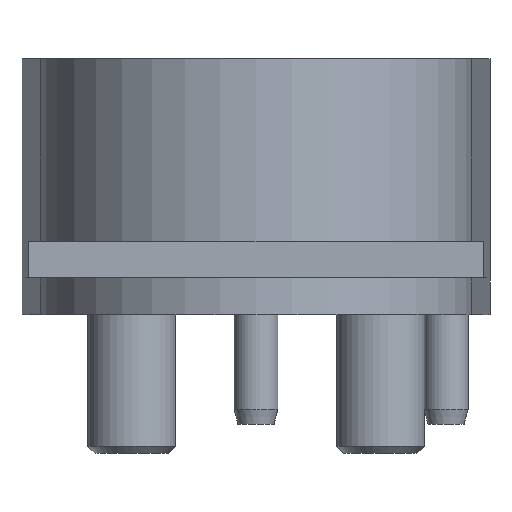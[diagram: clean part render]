
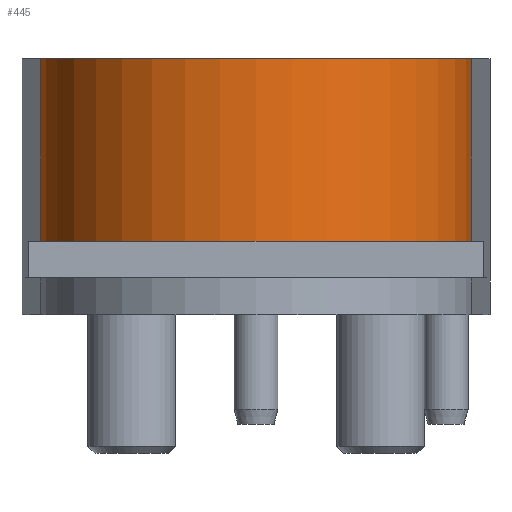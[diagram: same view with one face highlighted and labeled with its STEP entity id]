
A CAD part, left-side view. The second image highlights one B-rep face of the part: STEP entity #445.
In plain terms, the highlighted cylindrical face has radius 29.5 mm (diameter 59 mm), a partial arc.
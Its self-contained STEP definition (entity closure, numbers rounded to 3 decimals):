
#130=CYLINDRICAL_SURFACE('',#2700,29.5);
#289=CIRCLE('',#2698,29.5);
#290=CIRCLE('',#2699,29.5);
#445=ADVANCED_FACE('',(#663),#130,.T.);
#663=FACE_OUTER_BOUND('',#807,.T.);
#807=EDGE_LOOP('',(#1133,#1134,#1135,#1136));
#1133=ORIENTED_EDGE('',*,*,#1974,.F.);
#1134=ORIENTED_EDGE('',*,*,#1975,.T.);
#1135=ORIENTED_EDGE('',*,*,#1976,.F.);
#1136=ORIENTED_EDGE('',*,*,#1977,.F.);
#1713=VERTEX_POINT('',#3939);
#1714=VERTEX_POINT('',#3940);
#1715=VERTEX_POINT('',#3942);
#1716=VERTEX_POINT('',#3944);
#1974=EDGE_CURVE('',#1713,#1714,#289,.T.);
#1975=EDGE_CURVE('',#1713,#1715,#2288,.T.);
#1976=EDGE_CURVE('',#1716,#1715,#290,.T.);
#1977=EDGE_CURVE('',#1714,#1716,#2289,.T.);
#2288=LINE('',#3941,#2486);
#2289=LINE('',#3945,#2487);
#2486=VECTOR('',#3152,1.);
#2487=VECTOR('',#3155,1.);
#2698=AXIS2_PLACEMENT_3D('',#3938,#3150,#3151);
#2699=AXIS2_PLACEMENT_3D('',#3943,#3153,#3154);
#2700=AXIS2_PLACEMENT_3D('',#3946,#3156,#3157);
#3150=DIRECTION('',(0.,0.,-1.));
#3151=DIRECTION('',(0.,1.,0.));
#3152=DIRECTION('',(0.,0.,1.));
#3153=DIRECTION('',(0.,0.,1.));
#3154=DIRECTION('',(0.,1.,0.));
#3155=DIRECTION('',(0.,0.,1.));
#3156=DIRECTION('',(0.,0.,1.));
#3157=DIRECTION('',(-1.,0.,0.));
#3938=CARTESIAN_POINT('',(0.,0.,10.));
#3939=CARTESIAN_POINT('',(-1.989,-29.433,10.));
#3940=CARTESIAN_POINT('',(-1.989,29.433,10.));
#3941=CARTESIAN_POINT('',(-1.989,-29.433,5.));
#3942=CARTESIAN_POINT('',(-1.989,-29.433,35.));
#3943=CARTESIAN_POINT('',(0.,0.,35.));
#3944=CARTESIAN_POINT('',(-1.989,29.433,35.));
#3945=CARTESIAN_POINT('',(-1.989,29.433,5.));
#3946=CARTESIAN_POINT('',(0.,0.,0.));
